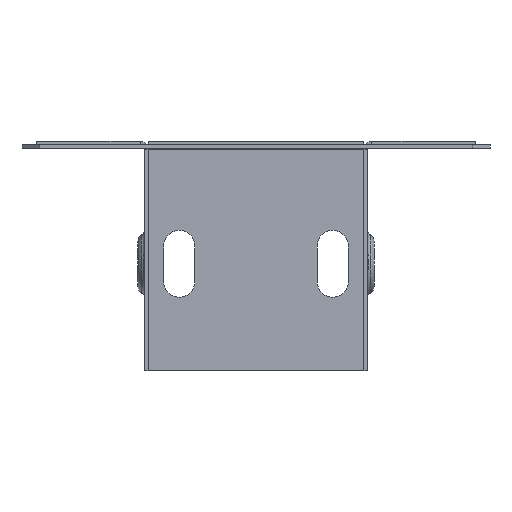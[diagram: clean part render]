
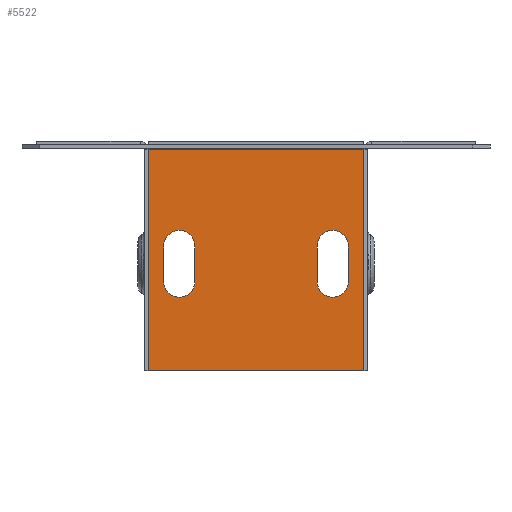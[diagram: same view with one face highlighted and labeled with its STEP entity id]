
A CAD part, left-side view. The second image highlights one B-rep face of the part: STEP entity #5522.
In plain terms, the highlighted planar face has unit normal (-1, 0, 0) as drawn and (0, 1, 0) by its records, which use the part's own axes.
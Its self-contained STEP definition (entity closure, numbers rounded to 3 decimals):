
#44 = ORIENTED_EDGE ( 'NONE', *, *, #1448, .F. ) ;
#71 = CARTESIAN_POINT ( 'NONE',  ( 20.7, 0.8, 31.5 ) ) ;
#154 = CARTESIAN_POINT ( 'NONE',  ( 13.7, 0.8, 31.5 ) ) ;
#316 = EDGE_CURVE ( 'NONE', #1963, #1124, #6074, .T. ) ;
#331 = VERTEX_POINT ( 'NONE', #2063 ) ;
#348 = DIRECTION ( 'NONE',  ( 0., -1., 0. ) ) ;
#395 = ORIENTED_EDGE ( 'NONE', *, *, #4510, .F. ) ;
#399 = ORIENTED_EDGE ( 'NONE', *, *, #5903, .T. ) ;
#492 = VECTOR ( 'NONE', #2549, 1000. ) ;
#576 = DIRECTION ( 'NONE',  ( -1., 0., 0. ) ) ;
#679 = VERTEX_POINT ( 'NONE', #4350 ) ;
#709 = LINE ( 'NONE', #945, #5758 ) ;
#715 = CIRCLE ( 'NONE', #2728, 3.5 ) ;
#821 = CARTESIAN_POINT ( 'NONE',  ( -17.2, 0.8, 23.5 ) ) ;
#833 = ORIENTED_EDGE ( 'NONE', *, *, #965, .T. ) ;
#922 = CIRCLE ( 'NONE', #4165, 3.5 ) ;
#945 = CARTESIAN_POINT ( 'NONE',  ( 13.7, 0.8, 31.5 ) ) ;
#947 = AXIS2_PLACEMENT_3D ( 'NONE', #3478, #3388, #3597 ) ;
#965 = EDGE_CURVE ( 'NONE', #4421, #331, #715, .T. ) ;
#970 = ORIENTED_EDGE ( 'NONE', *, *, #316, .F. ) ;
#987 = DIRECTION ( 'NONE',  ( 0., 0., 1. ) ) ;
#1011 = EDGE_CURVE ( 'NONE', #679, #1241, #5475, .T. ) ;
#1023 = ORIENTED_EDGE ( 'NONE', *, *, #4056, .T. ) ;
#1044 = CARTESIAN_POINT ( 'NONE',  ( -13.7, 0.8, 31.5 ) ) ;
#1124 = VERTEX_POINT ( 'NONE', #2679 ) ;
#1241 = VERTEX_POINT ( 'NONE', #71 ) ;
#1273 = ORIENTED_EDGE ( 'NONE', *, *, #1715, .T. ) ;
#1284 = DIRECTION ( 'NONE',  ( 0., 0., 1. ) ) ;
#1357 = AXIS2_PLACEMENT_3D ( 'NONE', #3492, #2011, #5486 ) ;
#1448 = EDGE_CURVE ( 'NONE', #2626, #4288, #709, .T. ) ;
#1580 = ORIENTED_EDGE ( 'NONE', *, *, #1756, .T. ) ;
#1710 = CARTESIAN_POINT ( 'NONE',  ( 20.7, 0.8, 23.5 ) ) ;
#1715 = EDGE_CURVE ( 'NONE', #2345, #4421, #4833, .T. ) ;
#1722 = VERTEX_POINT ( 'NONE', #6235 ) ;
#1726 = LINE ( 'NONE', #6036, #492 ) ;
#1756 = EDGE_CURVE ( 'NONE', #1963, #4044, #1726, .T. ) ;
#1764 = CIRCLE ( 'NONE', #5877, 3.5 ) ;
#1773 = DIRECTION ( 'NONE',  ( 0., 1., 0. ) ) ;
#1859 = CARTESIAN_POINT ( 'NONE',  ( 17.2, 0.8, 31.5 ) ) ;
#1920 = VECTOR ( 'NONE', #3253, 1000. ) ;
#1963 = VERTEX_POINT ( 'NONE', #4061 ) ;
#2011 = DIRECTION ( 'NONE',  ( 0., -1., 0. ) ) ;
#2063 = CARTESIAN_POINT ( 'NONE',  ( -13.7, 0.8, 23.5 ) ) ;
#2064 = EDGE_LOOP ( 'NONE', ( #2261, #4047, #1273, #833, #399 ) ) ;
#2217 = VECTOR ( 'NONE', #2735, 1000. ) ;
#2261 = ORIENTED_EDGE ( 'NONE', *, *, #4454, .T. ) ;
#2283 = EDGE_LOOP ( 'NONE', ( #2944, #5445, #395, #44, #3276 ) ) ;
#2290 = VECTOR ( 'NONE', #4012, 1000. ) ;
#2305 = EDGE_CURVE ( 'NONE', #4407, #2626, #5347, .T. ) ;
#2345 = VERTEX_POINT ( 'NONE', #4218 ) ;
#2362 = CIRCLE ( 'NONE', #3506, 3.5 ) ;
#2508 = FACE_BOUND ( 'NONE', #2064, .T. ) ;
#2518 = EDGE_CURVE ( 'NONE', #1722, #2345, #1764, .T. ) ;
#2549 = DIRECTION ( 'NONE',  ( -1., 0., 0. ) ) ;
#2626 = VERTEX_POINT ( 'NONE', #4586 ) ;
#2679 = CARTESIAN_POINT ( 'NONE',  ( 24.2, 0.8, 51.5 ) ) ;
#2728 = AXIS2_PLACEMENT_3D ( 'NONE', #821, #6181, #4783 ) ;
#2735 = DIRECTION ( 'NONE',  ( 0., 0., 1. ) ) ;
#2775 = DIRECTION ( 'NONE',  ( 0., 1., 0. ) ) ;
#2800 = DIRECTION ( 'NONE',  ( 0., 0., 1. ) ) ;
#2916 = CARTESIAN_POINT ( 'NONE',  ( -17.2, 0.8, 31.5 ) ) ;
#2936 = DIRECTION ( 'NONE',  ( 0., -1., 0. ) ) ;
#2938 = CARTESIAN_POINT ( 'NONE',  ( 20.7, 0.8, 31.5 ) ) ;
#2944 = ORIENTED_EDGE ( 'NONE', *, *, #2961, .F. ) ;
#2961 = EDGE_CURVE ( 'NONE', #1241, #4407, #4565, .T. ) ;
#3138 = LINE ( 'NONE', #3481, #5907 ) ;
#3242 = CARTESIAN_POINT ( 'NONE',  ( -17.2, 0.8, 31.5 ) ) ;
#3253 = DIRECTION ( 'NONE',  ( 0., 0., -1. ) ) ;
#3276 = ORIENTED_EDGE ( 'NONE', *, *, #2305, .F. ) ;
#3356 = DIRECTION ( 'NONE',  ( 0., 0., 1. ) ) ;
#3388 = DIRECTION ( 'NONE',  ( 0., 1., 0. ) ) ;
#3389 = EDGE_LOOP ( 'NONE', ( #1023, #4973, #970, #1580 ) ) ;
#3408 = AXIS2_PLACEMENT_3D ( 'NONE', #1859, #1773, #1284 ) ;
#3426 = VERTEX_POINT ( 'NONE', #5852 ) ;
#3478 = CARTESIAN_POINT ( 'NONE',  ( 17.2, 0.8, 23.5 ) ) ;
#3481 = CARTESIAN_POINT ( 'NONE',  ( 24.2, 0.8, 51.5 ) ) ;
#3492 = CARTESIAN_POINT ( 'NONE',  ( 24.2, 0.8, 0. ) ) ;
#3506 = AXIS2_PLACEMENT_3D ( 'NONE', #3242, #348, #3738 ) ;
#3557 = LINE ( 'NONE', #5194, #2217 ) ;
#3597 = DIRECTION ( 'NONE',  ( 0., 0., 1. ) ) ;
#3738 = DIRECTION ( 'NONE',  ( 0., 0., 1. ) ) ;
#4012 = DIRECTION ( 'NONE',  ( 0., 0., 1. ) ) ;
#4044 = VERTEX_POINT ( 'NONE', #6257 ) ;
#4047 = ORIENTED_EDGE ( 'NONE', *, *, #2518, .T. ) ;
#4056 = EDGE_CURVE ( 'NONE', #4044, #3426, #4229, .T. ) ;
#4061 = CARTESIAN_POINT ( 'NONE',  ( 24.2, 0.8, 1.8 ) ) ;
#4165 = AXIS2_PLACEMENT_3D ( 'NONE', #5735, #2775, #6208 ) ;
#4218 = CARTESIAN_POINT ( 'NONE',  ( -20.7, 0.8, 31.5 ) ) ;
#4229 = LINE ( 'NONE', #6276, #4385 ) ;
#4288 = VERTEX_POINT ( 'NONE', #154 ) ;
#4350 = CARTESIAN_POINT ( 'NONE',  ( 17.2, 0.8, 35. ) ) ;
#4385 = VECTOR ( 'NONE', #3356, 1000. ) ;
#4407 = VERTEX_POINT ( 'NONE', #1710 ) ;
#4421 = VERTEX_POINT ( 'NONE', #6129 ) ;
#4454 = EDGE_CURVE ( 'NONE', #5521, #1722, #2362, .T. ) ;
#4490 = PLANE ( 'NONE',  #1357 ) ;
#4510 = EDGE_CURVE ( 'NONE', #4288, #679, #922, .T. ) ;
#4565 = LINE ( 'NONE', #2938, #1920 ) ;
#4586 = CARTESIAN_POINT ( 'NONE',  ( 13.7, 0.8, 23.5 ) ) ;
#4752 = CARTESIAN_POINT ( 'NONE',  ( 24.2, 0.8, 0. ) ) ;
#4783 = DIRECTION ( 'NONE',  ( 0., 0., 1. ) ) ;
#4787 = EDGE_CURVE ( 'NONE', #1124, #3426, #3138, .T. ) ;
#4833 = LINE ( 'NONE', #5669, #5678 ) ;
#4942 = DIRECTION ( 'NONE',  ( 0., 0., -1. ) ) ;
#4973 = ORIENTED_EDGE ( 'NONE', *, *, #4787, .F. ) ;
#4983 = FACE_OUTER_BOUND ( 'NONE', #3389, .T. ) ;
#5194 = CARTESIAN_POINT ( 'NONE',  ( -13.7, 0.8, 31.5 ) ) ;
#5347 = CIRCLE ( 'NONE', #947, 3.5 ) ;
#5445 = ORIENTED_EDGE ( 'NONE', *, *, #1011, .F. ) ;
#5475 = CIRCLE ( 'NONE', #3408, 3.5 ) ;
#5486 = DIRECTION ( 'NONE',  ( 0., 0., -1. ) ) ;
#5521 = VERTEX_POINT ( 'NONE', #1044 ) ;
#5522 = ADVANCED_FACE ( 'NONE', ( #4983, #6267, #2508 ), #4490, .F. ) ;
#5669 = CARTESIAN_POINT ( 'NONE',  ( -20.7, 0.8, 31.5 ) ) ;
#5678 = VECTOR ( 'NONE', #4942, 1000. ) ;
#5735 = CARTESIAN_POINT ( 'NONE',  ( 17.2, 0.8, 31.5 ) ) ;
#5758 = VECTOR ( 'NONE', #987, 1000. ) ;
#5852 = CARTESIAN_POINT ( 'NONE',  ( -24.2, 0.8, 51.5 ) ) ;
#5877 = AXIS2_PLACEMENT_3D ( 'NONE', #2916, #2936, #2800 ) ;
#5903 = EDGE_CURVE ( 'NONE', #331, #5521, #3557, .T. ) ;
#5907 = VECTOR ( 'NONE', #576, 1000. ) ;
#6036 = CARTESIAN_POINT ( 'NONE',  ( 24.2, 0.8, 1.8 ) ) ;
#6074 = LINE ( 'NONE', #4752, #2290 ) ;
#6129 = CARTESIAN_POINT ( 'NONE',  ( -20.7, 0.8, 23.5 ) ) ;
#6181 = DIRECTION ( 'NONE',  ( 0., -1., 0. ) ) ;
#6208 = DIRECTION ( 'NONE',  ( 0., 0., 1. ) ) ;
#6235 = CARTESIAN_POINT ( 'NONE',  ( -17.2, 0.8, 35. ) ) ;
#6257 = CARTESIAN_POINT ( 'NONE',  ( -24.2, 0.8, 1.8 ) ) ;
#6267 = FACE_BOUND ( 'NONE', #2283, .T. ) ;
#6276 = CARTESIAN_POINT ( 'NONE',  ( -24.2, 0.8, 0. ) ) ;
